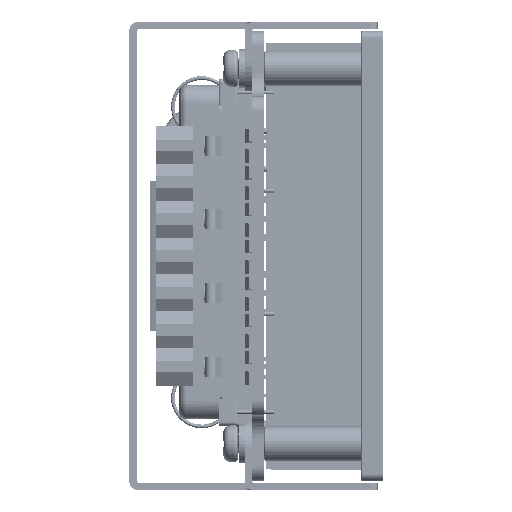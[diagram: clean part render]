
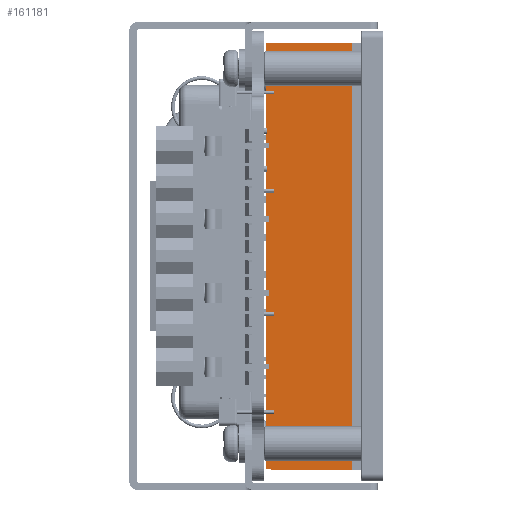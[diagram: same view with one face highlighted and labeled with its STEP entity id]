
A CAD part, left-side view. The second image highlights one B-rep face of the part: STEP entity #161181.
In plain terms, the highlighted planar face has unit normal (-1, 0.009, 0).
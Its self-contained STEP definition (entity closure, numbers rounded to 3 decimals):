
#19980 = PLANE ( 'NONE',  #39353 ) ;
#39353 = AXIS2_PLACEMENT_3D ( 'NONE', #235879, #190973, #411507 ) ;
#46267 = FACE_OUTER_BOUND ( 'NONE', #265292, .T. ) ;
#69434 = LINE ( 'NONE', #387370, #212737 ) ;
#80388 = CARTESIAN_POINT ( 'NONE',  ( -19.464, 11.03, 28.9 ) ) ;
#81027 = DIRECTION ( 'NONE',  ( -0.009, -1., -0.009 ) ) ;
#122963 = DIRECTION ( 'NONE',  ( 0., 0., 1. ) ) ;
#144708 = VECTOR ( 'NONE', #191860, 1000. ) ;
#152216 = CARTESIAN_POINT ( 'NONE',  ( -19.561, -0.065, -28.996 ) ) ;
#161181 = ADVANCED_FACE ( 'NONE', ( #46267 ), #19980, .T. ) ;
#162984 = EDGE_CURVE ( 'NONE', #164614, #163250, #69434, .T. ) ;
#163250 = VERTEX_POINT ( 'NONE', #403747 ) ;
#163712 = ORIENTED_EDGE ( 'NONE', *, *, #185621, .T. ) ;
#164614 = VERTEX_POINT ( 'NONE', #244500 ) ;
#167663 = VECTOR ( 'NONE', #122963, 1000. ) ;
#184834 = VECTOR ( 'NONE', #81027, 1000. ) ;
#185621 = EDGE_CURVE ( 'NONE', #359796, #333107, #228084, .T. ) ;
#190973 = DIRECTION ( 'NONE',  ( -1., 0.009, 0. ) ) ;
#191860 = DIRECTION ( 'NONE',  ( 0., 0., 1. ) ) ;
#212737 = VECTOR ( 'NONE', #432379, 1000. ) ;
#228084 = LINE ( 'NONE', #152216, #184834 ) ;
#235879 = CARTESIAN_POINT ( 'NONE',  ( -19.565, -0.57, 28.9 ) ) ;
#244500 = CARTESIAN_POINT ( 'NONE',  ( -19.464, 11.03, 28.799 ) ) ;
#251306 = CARTESIAN_POINT ( 'NONE',  ( -19.565, -0.57, -29. ) ) ;
#265292 = EDGE_LOOP ( 'NONE', ( #302458, #371971, #305397, #163712 ) ) ;
#275071 = CARTESIAN_POINT ( 'NONE',  ( -19.464, 11.03, -28.899 ) ) ;
#302458 = ORIENTED_EDGE ( 'NONE', *, *, #310896, .T. ) ;
#305397 = ORIENTED_EDGE ( 'NONE', *, *, #374304, .F. ) ;
#310896 = EDGE_CURVE ( 'NONE', #333107, #163250, #374424, .T. ) ;
#333107 = VERTEX_POINT ( 'NONE', #251306 ) ;
#359796 = VERTEX_POINT ( 'NONE', #275071 ) ;
#371971 = ORIENTED_EDGE ( 'NONE', *, *, #162984, .F. ) ;
#374304 = EDGE_CURVE ( 'NONE', #359796, #164614, #440972, .T. ) ;
#374424 = LINE ( 'NONE', #443349, #144708 ) ;
#387370 = CARTESIAN_POINT ( 'NONE',  ( -19.565, -0.57, 28.9 ) ) ;
#403747 = CARTESIAN_POINT ( 'NONE',  ( -19.565, -0.57, 28.9 ) ) ;
#411507 = DIRECTION ( 'NONE',  ( 0.009, 1., 0. ) ) ;
#432379 = DIRECTION ( 'NONE',  ( -0.009, -1., 0.009 ) ) ;
#440972 = LINE ( 'NONE', #80388, #167663 ) ;
#443349 = CARTESIAN_POINT ( 'NONE',  ( -19.565, -0.57, 28.9 ) ) ;
